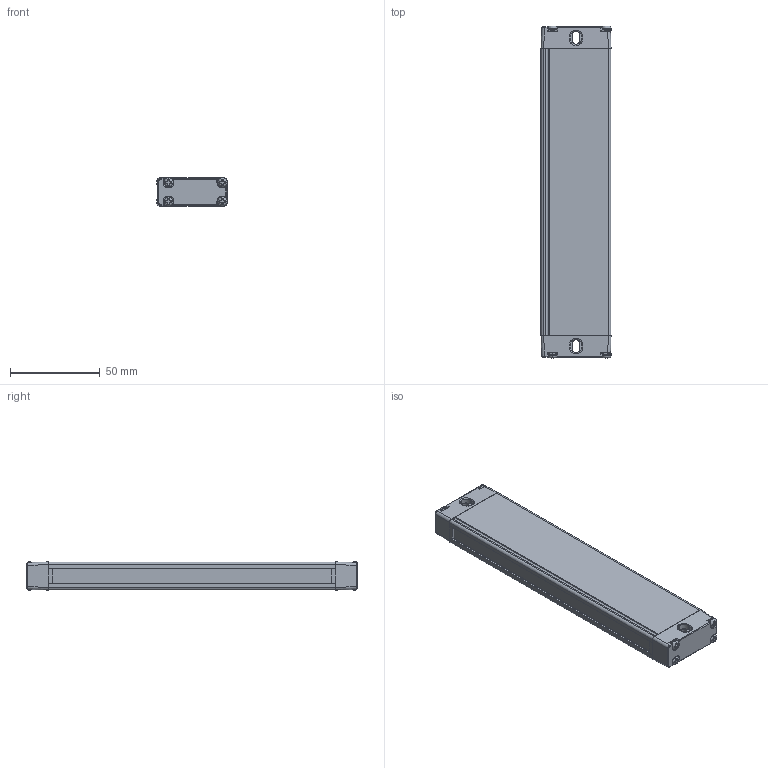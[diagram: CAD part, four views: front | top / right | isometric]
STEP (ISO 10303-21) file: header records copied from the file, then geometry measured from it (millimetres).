
FILE_DESCRIPTION((''),'2;1');
FILE_NAME('EB15--3610_ASM','2021-07-22T09:56:12',('18720616900'),(''),'CREO PARAMETRIC BY PTC INC, 2019010','CREO PARAMETRIC BY PTC INC, 2019010','');
FILE_SCHEMA(('CONFIG_CONTROL_DESIGN'));
Length unit declared in the file: millimetre
Products named in the file (6): EB15-00; EB15-000; EB15-0003; EB15-0004; ST-3-12; EB15--3610_ASM
Assembly tree (12 placements, depth 2):
  EB15--3610_ASM
    EB15-00
    EB15-000
    EB15-0003
    EB15-0004
    ST-3-12  x8
Bounding box: 39.15 x 185 x 15.8 mm (x, y, z)
Volume: 110529.8 mm3; surface area: 31629.3 mm2
Topology: 12 solids, 12 shells, 827 faces, 2188 edges, 1368 vertices
Faces by surface type: plane 242, bspline 188, cone 176, cylinder 165, torus 40, sphere 16
Entity records: 16044 total; most frequent: CARTESIAN_POINT 7660, ORIENTED_EDGE 1804, DIRECTION 1603, EDGE_CURVE 902, AXIS2_PLACEMENT_3D 577, VERTEX_POINT 563, VECTOR 449, LINE 449
